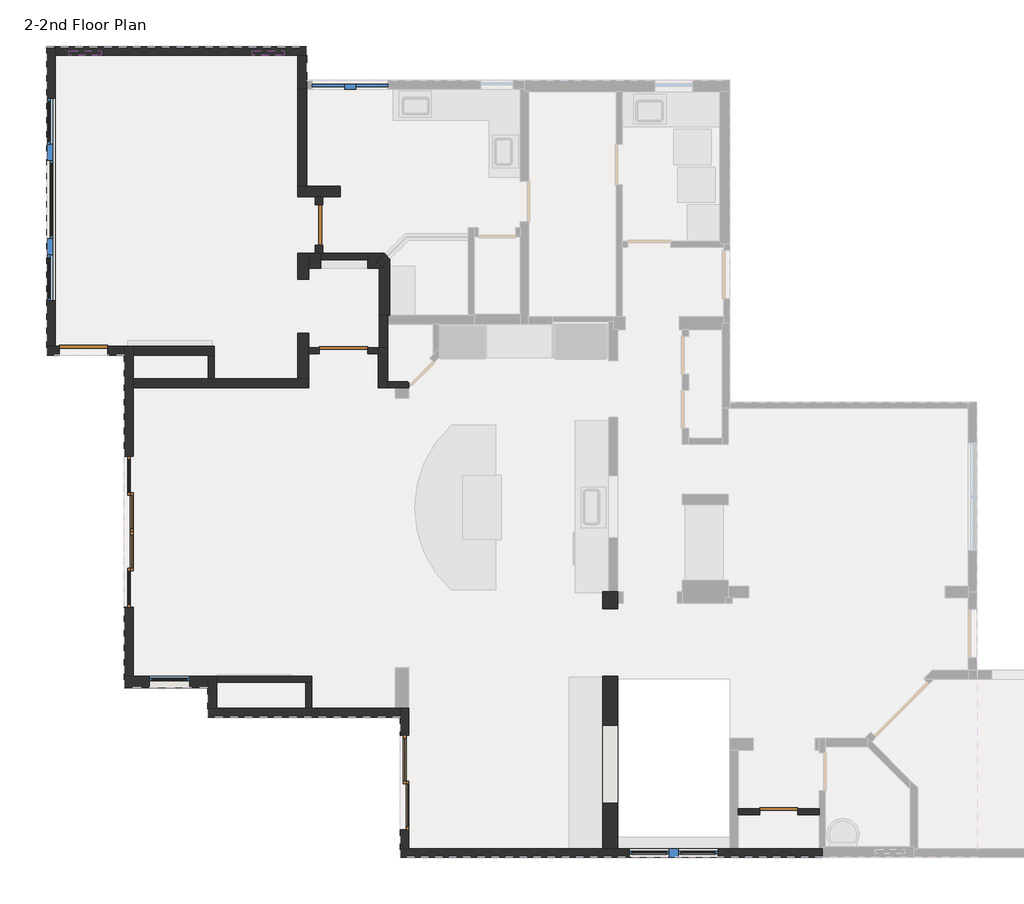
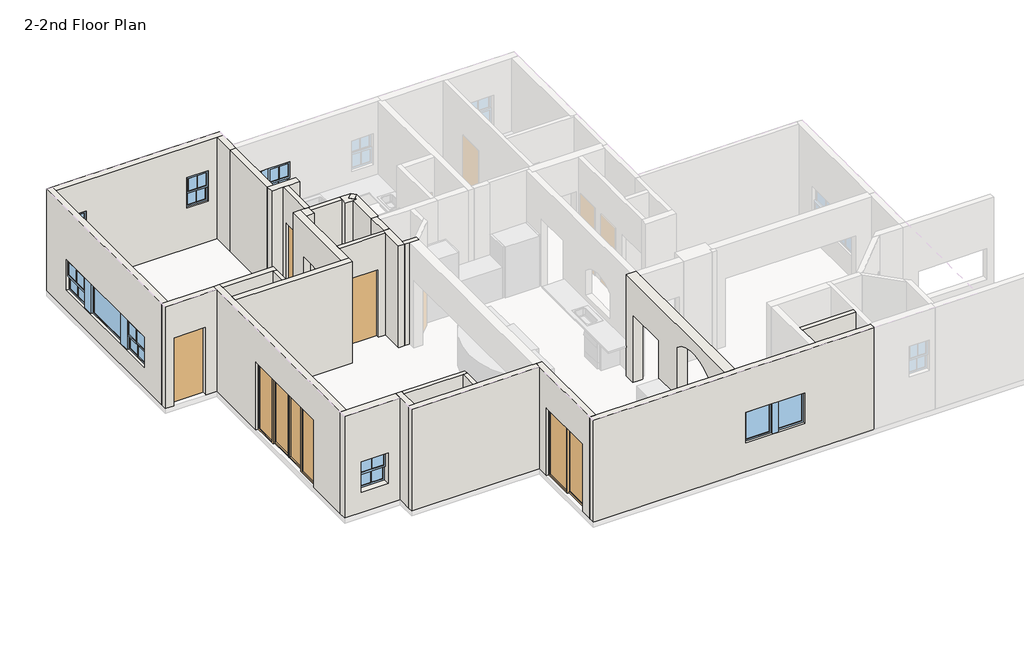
# One storey, part 1 of 3: 30 walls, 7 doors, 6 windows.
"""IFC4 building model written with IfcOpenShell, lengths in millimetres."""

from ifc_helpers import new_model, si_unit, frame, origin, place, context, project, spatial, polyline, circle_curve, outline, extrude, faceted_brep, transform, mapped, element, save
from ifc_brep_helpers import plane_surface, revolved_surface, advanced_brep
from components import door_64bc458f, door_eaf6c470, door_f2e01136, door_df503d46, door_63f27d76, door_1ca3bb58, door_0668c35f, window_c6721ae3, window_ac6b56c1, window_c7df3585, window_90565c03, window_83dc67e6

model = new_model("IFC4")

# Units and contexts
model_context = context("Model", 3, world=origin())
ifc_project = project(units=[si_unit("LENGTHUNIT", "METRE", prefix="MILLI")], contexts=[model_context])

# Site, building, storey
site = spatial("IfcSite", under=ifc_project)
building = spatial("IfcBuilding", under=site)
storey = spatial("IfcBuildingStorey", under=building, Name="2-2nd Floor Plan", Elevation=3348.0)

# Doors
placement = place(None, origin())
door_shape = door_64bc458f(model_context)
element("IfcDoor", 1, ObjectType="Door_1 : 2'-4\" X 6'-8\"", at=placement, inside=storey, context=model_context, shape_type="MappedRepresentation", body=[
    mapped(door_shape, transform((7137.4, 857.25, 3348.0), x_axis=(-1.0, 0.0, 0.0), y_axis=(0.0, -1.0, 0.0), z_axis=(0.0, 0.0, 1.0))),
])
door_2_shape = door_eaf6c470(model_context)
element("IfcDoor", 2, ObjectType="Door_1 : 3'-0\" X 6'-8\"", at=placement, inside=storey, context=model_context, shape_type="MappedRepresentation", body=[
    mapped(door_2_shape, transform((-1066.8, 9544.05, 3348.0), x_axis=(1.0, 0.0, 0.0), y_axis=(0.0, 1.0, 0.0), z_axis=(0.0, 0.0, 1.0))),
])
door_3_shape = door_f2e01136(model_context)
element("IfcDoor", 3, ObjectType="Door_1 : 3'-0\" X 6'-8\"", at=placement, inside=storey, context=model_context, shape_type="MappedRepresentation", body=[
    mapped(door_3_shape, transform((-5962.65, 9544.05, 3348.0), x_axis=(-1.0, 0.0, 0.0), y_axis=(0.0, -1.0, 0.0), z_axis=(0.0, 0.0, 1.0))),
])
door_4_shape = door_df503d46(model_context)
element("IfcDoor", 4, ObjectType="Door_3 : 4'-8\" X 6'-8\"", at=placement, inside=storey, context=model_context, shape_type="MappedRepresentation", body=[
    mapped(door_4_shape, transform((-5238.75, 6845.3, 3348.0), x_axis=(0.0, 1.0, 0.0), y_axis=(-1.0, 0.0, 0.0), z_axis=(0.0, 0.0, 1.0))),
])
door_5_shape = door_63f27d76(model_context)
element("IfcDoor", 5, ObjectType="Door_3 : 4'-8\" X 6'-8\"", at=placement, inside=storey, context=model_context, shape_type="MappedRepresentation", body=[
    mapped(door_5_shape, transform((-5238.75, 5422.9, 3348.0), x_axis=(0.0, -1.0, 0.0), y_axis=(1.0, 0.0, 0.0), z_axis=(0.0, 0.0, 1.0))),
])
door_6_shape = door_1ca3bb58(model_context)
element("IfcDoor", 6, ObjectType="Door_3 : 5'-10\" X 6'-8\"", at=placement, inside=storey, context=model_context, shape_type="MappedRepresentation", body=[
    mapped(door_6_shape, transform((-44.45, 1409.7, 3348.0), x_axis=(0.0, 1.0, 0.0), y_axis=(-1.0, 0.0, 0.0), z_axis=(0.0, 0.0, 1.0))),
])
door_7_shape = door_0668c35f(model_context)
element("IfcDoor", 7, ObjectType="Door_4 : 2'-6\" X 6'-8\"", at=placement, inside=storey, context=model_context, shape_type="MappedRepresentation", body=[
    mapped(door_7_shape, transform((-1520.825, 11912.4947939, 3348.0), x_axis=(0.0, -1.0, 0.0), y_axis=(1.0, 0.0, 0.0), z_axis=(0.0, 0.0, 1.0))),
])

# Walls
element("IfcWall", 8, ObjectType="Wall_11\"", at=placement, inside=storey, context=model_context, shape_type="Brep", body=[
    faceted_brep([(-1720.85, 11099.8, 3348.0), (-1498.6, 11099.8, 3348.0), (-1498.6, 11099.8, 6396.0), (-1720.85, 11099.8, 6396.0), (-1720.85, 11379.2, 3348.0), (-1720.85, 11379.2, 6396.0), (-1593.85, 11379.2, 6396.0), (-1498.6, 11379.2, 6396.0), (-1498.6, 11379.2, 3348.0), (-1593.85, 11379.2, 3348.0), (-1498.6, 11264.9, 3348.0), (-1498.6, 11264.9, 6396.0)], [[[0, 1, 2, 3]], [[4, 5, 6, 7, 8, 9]], [[1, 0, 4, 9, 8, 10]], [[2, 1, 10, 8, 7, 11]], [[3, 2, 11, 7, 6, 5]], [[0, 3, 5, 4]]]),
])
element("IfcWall", 9, ObjectType="Wall_11\"", at=placement, inside=storey, context=model_context, shape_type="AdvancedBrep", body=[
    advanced_brep(
    [(3822.7, 165.1, 6396.0), (3822.7, 5003.8, 6396.0), (3822.7, 5003.8, 3348.0), (3822.7, 4686.1947939, 3348.0), (3822.7, 4686.1947939, 5380.0), (3822.7, 3416.1947939, 5380.0), (3822.7, 3416.1947939, 3348.0), (3822.7, 165.1, 3348.0), (3822.7, 1016.0, 5735.6), (3822.7, 1016.0, 4414.8), (3822.7, 2489.2, 4414.8), (3822.7, 2489.2, 5735.6), (4102.1, 5003.8, 6396.0), (4102.1, 4787.7947939, 6396.0), (4102.1, 165.1, 6396.0), (4102.1, 165.1, 3348.0), (4102.1, 3416.1947939, 3348.0), (4102.1, 3416.1947939, 5380.0), (4102.1, 4686.1947939, 5380.0), (4102.1, 4686.1947939, 3348.0), (4102.1, 4787.7947939, 3348.0), (4102.1, 5003.8, 3348.0), (4102.1, 1016.0, 4414.8), (4102.1, 1016.0, 5735.6), (4102.1, 2489.2, 5735.6), (4102.1, 2489.2, 4414.8), (3937.0, 5003.8, 3348.0), (3937.0, 5003.8, 6396.0)],
    [
        (0, 1),
        (1, 2),
        (2, 3),
        (3, 4),
        (4, 5),
        (5, 6),
        (6, 7),
        (7, 0),
        (8, 9),
        (9, 10),
        (10, 11),
        (11, 8, circle_curve(frame((3822.7, 1752.6, 4916.8562565), z_axis=(1.0, 0.0, 0.0), x_axis=(0.0, -1.0, 0.0)), 1101.3268713)),
        (12, 13),
        (13, 14),
        (14, 15),
        (15, 16),
        (16, 17),
        (17, 18),
        (18, 19),
        (19, 20),
        (20, 21),
        (21, 12),
        (22, 23),
        (23, 24, circle_curve(frame((4102.1, 1752.6, 4916.8562565), z_axis=(-1.0, 0.0, 0.0), x_axis=(0.0, -1.0, 0.0)), 1101.3268713)),
        (24, 25),
        (25, 22),
        (15, 7),
        (6, 16),
        (2, 26),
        (26, 21),
        (19, 3),
        (0, 14),
        (12, 27),
        (27, 1),
        (18, 4),
        (5, 17),
        (8, 23),
        (22, 9),
        (11, 24),
        (10, 25),
    ],
    [
        plane_surface(frame((3822.7, 5003.6947939, 3348.0), z_axis=(-1.0, 0.0, 0.0), x_axis=(0.0, -1.0, 0.0))),
        plane_surface(frame((4102.1, 5003.6947939, 3348.0), z_axis=(1.0, 0.0, 0.0), x_axis=(0.0, 1.0, 0.0))),
        plane_surface(frame((3822.7, 5003.8, 3348.0), z_axis=(0.0, 0.0, -1.0), x_axis=(1.0, 0.0, 0.0))),
        plane_surface(frame((3822.7, 82.55, 6396.0), z_axis=(0.0, 0.0, 1.0), x_axis=(1.0, 0.0, 0.0))),
        plane_surface(frame((3822.7, 5003.8, 6396.0), z_axis=(0.0, 1.0, 0.0), x_axis=(1.0, 0.0, 0.0))),
        plane_surface(frame((7693.6373882, 165.1, 3348.0), z_axis=(0.0, -1.0, 0.0), x_axis=(-1.0, 0.0, 0.0))),
        plane_surface(frame((3822.7, 4686.1947939, 3348.0), z_axis=(0.0, -1.0, 0.0), x_axis=(1.0, 0.0, 0.0))),
        plane_surface(frame((3822.7, 3416.1947939, 5380.0), z_axis=(0.0, 1.0, 0.0), x_axis=(1.0, 0.0, 0.0))),
        plane_surface(frame((3822.7, 1016.0, 4414.8), z_axis=(0.0, 1.0, 0.0), x_axis=(1.0, 0.0, 0.0))),
        revolved_surface(polyline([(3822.7, 651.2731286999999, 4916.8562565), (4102.1, 651.2731286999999, 4916.8562565)]), (4102.1, 1752.6, 4916.8562565), (-1.0, 0.0, 0.0)),
        plane_surface(frame((3822.7, 2489.2, 5735.6), z_axis=(0.0, -1.0, 0.0), x_axis=(1.0, 0.0, 0.0))),
        plane_surface(frame((3822.7, 2489.2, 4414.8), z_axis=(0.0, 0.0, 1.0), x_axis=(1.0, 0.0, 0.0))),
        plane_surface(frame((3822.7, 4686.1947939, 5380.0), z_axis=(0.0, 0.0, -1.0), x_axis=(1.0, 0.0, 0.0))),
    ],
    [
        (0, [[1, 2, 3, 4, 5, 6, 7, 8], [9, 10, 11, 12]]),
        (1, [[13, 14, 15, 16, 17, 18, 19, 20, 21, 22], [23, 24, 25, 26]]),
        (2, [[27, -7, 28, -16]]),
        (2, [[29, 30, -21, -20, 31, -3]]),
        (3, [[-1, 32, -14, -13, 33, 34]]),
        (4, [[-2, -34, -33, -22, -30, -29]]),
        (5, [[-8, -27, -15, -32]]),
        (6, [[-4, -31, -19, 35]]),
        (7, [[-6, 36, -17, -28]]),
        (8, [[37, -23, 38, -9]]),
        (9, [[-37, -12, 39, -24]]),
        (10, [[-39, -11, 40, -25]]),
        (11, [[-38, -26, -40, -10]]),
        (12, [[-5, -35, -18, -36]]),
    ],
),
])
element("IfcWall", 10, ObjectType="Wall_11\"", at=placement, inside=storey, context=model_context, shape_type="Brep", body=[
    faceted_brep([(-609.6, 11099.8, 3348.0), (-393.7, 11099.8, 3348.0), (-298.45, 11099.8, 3348.0), (-298.45, 11099.8, 6396.0), (-393.7, 11099.8, 6396.0), (-609.6, 11099.8, 6396.0), (-298.45, 11379.2, 3348.0), (-609.6, 11379.2, 3348.0), (-609.6, 11379.2, 6396.0), (-298.45, 11379.2, 6396.0), (-609.6, 11264.9, 3348.0), (-442.1340979, 11235.5159021, 3348.0), (-334.1840979, 11127.5659021, 3348.0), (-298.45, 11163.3, 3348.0), (-298.45, 11163.3, 6396.0), (-334.1840979, 11127.5659021, 6396.0), (-442.1340979, 11235.5159021, 6396.0), (-609.6, 11264.9, 6396.0)], [[[0, 1, 2, 3, 4, 5]], [[6, 7, 8, 9]], [[2, 1, 0, 10, 7, 6, 11, 12, 13]], [[3, 2, 13, 14]], [[5, 4, 3, 14, 15, 16, 9, 8, 17]], [[0, 5, 17, 8, 7, 10]], [[15, 12, 11, 16]], [[12, 15, 14, 13]], [[16, 11, 6, 9]]]),
])
element("IfcWall", 11, ObjectType="Wall_4.5\"", at=placement, inside=storey, context=model_context, shape_type="Brep", body=[
    faceted_brep([(-3454.4, 3302.0, 3348.0), (-1778.0, 3302.0, 3348.0), (-1663.7, 3302.0, 3348.0), (-1663.7, 3302.0, 6396.0), (-1778.0, 3302.0, 6396.0), (-3454.4, 3302.0, 6396.0), (-3454.4, 3416.3, 3348.0), (-3454.4, 3416.3, 6396.0), (-1663.7, 3416.3, 6396.0), (-1663.7, 3416.3, 3348.0)], [[[0, 1, 2, 3, 4, 5]], [[6, 7, 8, 9]], [[2, 1, 0, 6, 9]], [[5, 4, 3, 8, 7]], [[0, 5, 7, 6]], [[3, 2, 9, 8]]]),
])
element("IfcWall", 12, ObjectType="Wall_4.5\"", at=placement, inside=storey, context=model_context, shape_type="SweptSolid", body=[
    extrude(outline(polyline([(-1778.0, 2806.7), (-1778.0, 3302.0), (-1663.7, 3302.0), (-1663.7, 2806.7), (-1778.0, 2806.7)])), frame((0.0, 0.0, 3348.0), z_axis=(0.0, 0.0, 1.0), x_axis=(1.0, 0.0, 0.0)), (0.0, 0.0, 1.0), 3048.0),
])
element("IfcWall", 13, ObjectType="Wall_4.5\"", at=placement, inside=storey, context=model_context, shape_type="SweptSolid", body=[
    extrude(outline(polyline([(-3613.15, 9017.0), (-3613.15, 9461.5), (-3498.85, 9461.5), (-3498.85, 9017.0), (-3613.15, 9017.0)])), frame((0.0, 0.0, 3348.0), z_axis=(0.0, 0.0, 1.0), x_axis=(1.0, 0.0, 0.0)), (0.0, 0.0, 1.0), 3048.0),
])
element("IfcWall", 14, ObjectType="Wall_4.5\"", at=placement, inside=storey, context=model_context, shape_type="Brep", body=[
    faceted_brep([(-228.6, 8851.9, 3348.0), (-88.9, 8851.9, 3348.0), (165.1, 8851.9, 3348.0), (165.1, 8851.9, 6396.0), (-88.9, 8851.9, 6396.0), (-228.6, 8851.9, 6396.0), (-228.6, 8966.2, 6396.0), (117.7553898, 8966.2, 6396.0), (165.1, 8966.2, 6396.0), (165.1, 8966.2, 5380.0), (140.6573755, 8966.2, 5380.0), (140.6573755, 8966.2, 3348.0), (117.7553898, 8966.2, 3348.0), (-228.6, 8966.2, 3348.0), (165.1, 8941.7573755, 3348.0), (165.1, 8941.7573755, 5380.0)], [[[0, 1, 2, 3, 4, 5]], [[6, 7, 8, 9, 10, 11, 12, 13]], [[2, 1, 0, 13, 12, 11, 14]], [[5, 4, 3, 8, 7, 6]], [[0, 5, 6, 13]], [[3, 2, 14, 15, 9, 8]], [[15, 10, 9]], [[10, 15, 14, 11]]]),
])
element("IfcWall", 15, ObjectType="Wall_4.5\"", at=placement, inside=storey, context=model_context, shape_type="SweptSolid", body=[
    extrude(outline(polyline([(5380.0, -609.6), (3348.0, -609.6), (3348.0, -406.4), (6396.0, -406.4), (6396.0, -1720.85), (3348.0, -1720.85), (3348.0, -1524.0), (5380.0, -1524.0), (5380.0, -609.6)])), frame((0.0, 9486.9, 0.0), z_axis=(0.0, 1.0, 0.0), x_axis=(0.0, 0.0, 1.0)), (0.0, 0.0, 1.0), 114.3),
])
element("IfcWall", 16, ObjectType="Wall_4.5\"", at=placement, inside=storey, context=model_context, shape_type="SweptSolid", body=[
    extrude(outline(polyline([(3348.0, 6375.4), (3348.0, 6781.8), (5380.0, 6781.8), (5380.0, 7493.0), (3348.0, 7493.0), (3348.0, 7899.4), (6396.0, 7899.4), (6396.0, 6375.4), (3348.0, 6375.4)])), frame((0.0, 800.1, 0.0), z_axis=(0.0, 1.0, 0.0), x_axis=(0.0, 0.0, 1.0)), (0.0, 0.0, 1.0), 114.3),
])
element("IfcWall", 17, ObjectType="Wall_4.5\"", at=placement, inside=storey, context=model_context, shape_type="Brep", body=[
    faceted_brep([(-1498.6, 11264.9, 3348.0), (-609.6, 11264.9, 3348.0), (-609.6, 11264.9, 6396.0), (-1498.6, 11264.9, 6396.0), (-1498.6, 11379.2, 3348.0), (-1498.6, 11379.2, 6396.0), (-1454.15, 11379.2, 6396.0), (-609.6, 11379.2, 6396.0), (-609.6, 11379.2, 3348.0), (-1454.15, 11379.2, 3348.0)], [[[0, 1, 2, 3]], [[4, 5, 6, 7, 8, 9]], [[1, 0, 4, 9, 8]], [[2, 1, 8, 7]], [[3, 2, 7, 6, 5]], [[0, 3, 5, 4]]]),
])
element("IfcWall", 18, ObjectType="Wall_5.5\"", at=placement, inside=storey, context=model_context, shape_type="Brep", body=[
    faceted_brep([(-1454.15, 12445.8947939, 6396.0), (-1454.15, 11379.2, 6396.0), (-1454.15, 11379.2, 3348.0), (-1454.15, 11531.4947939, 3348.0), (-1454.15, 11531.4947939, 5405.4), (-1454.15, 12293.4947939, 5405.4), (-1454.15, 12293.4947939, 3348.0), (-1454.15, 12445.8947939, 3348.0), (-1593.85, 11379.2, 6396.0), (-1593.85, 12445.8947939, 6396.0), (-1593.85, 12445.8947939, 3348.0), (-1593.85, 12293.4947939, 3348.0), (-1593.85, 12293.4947939, 5405.4), (-1593.85, 11531.4947939, 5405.4), (-1593.85, 11531.4947939, 3348.0), (-1593.85, 11379.2, 3348.0), (-1498.6, 11379.2, 3348.0), (-1498.6, 11379.2, 6396.0)], [[[0, 1, 2, 3, 4, 5, 6, 7]], [[8, 9, 10, 11, 12, 13, 14, 15]], [[10, 7, 6, 11]], [[2, 16, 15, 14, 3]], [[1, 0, 9, 8, 17]], [[2, 1, 17, 8, 15, 16]], [[0, 7, 10, 9]], [[13, 4, 3, 14]], [[4, 13, 12, 5]], [[5, 12, 11, 6]]]),
])
element("IfcWall", 19, ObjectType="Wall_6.5\"", at=placement, inside=storey, context=model_context, shape_type="Brep", body=[
    faceted_brep([(7956.55, 165.1, 3348.0), (7899.4, 165.1, 3348.0), (6375.4, 165.1, 3348.0), (6210.3, 165.1, 3348.0), (4102.1, 165.1, 3348.0), (3822.7, 165.1, 3348.0), (165.1, 165.1, 3348.0), (0.0, 165.1, 3348.0), (0.0, 165.1, 6396.0), (165.1, 165.1, 6396.0), (3822.7, 165.1, 6396.0), (4102.1, 165.1, 6396.0), (6210.3, 165.1, 6396.0), (6375.4, 165.1, 6396.0), (7899.4, 165.1, 6396.0), (7956.55, 165.1, 6396.0), (5994.4, 165.1, 5126.0), (4318.0, 165.1, 5126.0), (4318.0, 165.1, 4211.6), (5994.4, 165.1, 4211.6), (7956.55, 0.0, 3348.0), (7956.55, 0.0, 6396.0), (0.0, 0.0, 6396.0), (0.0, 0.0, 3348.0), (5994.4, 0.0, 5126.0), (5994.4, 0.0, 4211.6), (4318.0, 0.0, 4211.6), (4318.0, 0.0, 5126.0)], [[[0, 1, 2, 3, 4, 5, 6, 7, 8, 9, 10, 11, 12, 13, 14, 15], [16, 17, 18, 19]], [[20, 21, 22, 23], [24, 25, 26, 27]], [[7, 6, 5, 4, 3, 2, 1, 0, 20, 23]], [[15, 14, 13, 12, 11, 10, 9, 8, 22, 21]], [[0, 15, 21, 20]], [[8, 7, 23, 22]], [[25, 24, 16, 19]], [[26, 25, 19, 18]], [[27, 26, 18, 17]], [[24, 27, 17, 16]]]),
])
element("IfcWall", 20, ObjectType="Wall_6.5\"", at=placement, inside=storey, context=model_context, shape_type="Brep", body=[
    faceted_brep([(165.1, 2298.7, 5380.0), (165.1, 2298.7, 3348.0), (165.1, 2806.7, 3348.0), (165.1, 2806.7, 6396.0), (165.1, 165.1, 6396.0), (165.1, 165.1, 3348.0), (165.1, 520.7, 3348.0), (165.1, 520.7, 5380.0), (0.0, 2806.7, 3348.0), (0.0, 2641.6, 3348.0), (0.0, 2298.7, 3348.0), (0.0, 2298.7, 5380.0), (0.0, 520.7, 5380.0), (0.0, 520.7, 3348.0), (0.0, 165.1, 3348.0), (0.0, 165.1, 6396.0), (0.0, 2641.6, 6396.0), (0.0, 2806.7, 6396.0)], [[[0, 1, 2, 3, 4, 5, 6, 7]], [[8, 9, 10, 11, 12, 13, 14, 15, 16, 17]], [[6, 5, 14, 13]], [[2, 1, 10, 9, 8]], [[4, 3, 17, 16, 15]], [[5, 4, 15, 14]], [[3, 2, 8, 17]], [[13, 12, 7, 6]], [[11, 10, 1, 0]], [[12, 11, 0, 7]]]),
])
element("IfcWall", 21, ObjectType="Wall_6.5\"", at=placement, inside=storey, context=model_context, shape_type="Brep", body=[
    faceted_brep([(0.0, 2806.7, 3348.0), (-88.9, 2806.7, 3348.0), (-1663.7, 2806.7, 3348.0), (-1778.0, 2806.7, 3348.0), (-3454.4, 2806.7, 3348.0), (-3619.5, 2806.7, 3348.0), (-3619.5, 2806.7, 6396.0), (-3454.4, 2806.7, 6396.0), (-1778.0, 2806.7, 6396.0), (-1663.7, 2806.7, 6396.0), (-88.9, 2806.7, 6396.0), (0.0, 2806.7, 6396.0), (0.0, 2641.6, 3348.0), (0.0, 2641.6, 6396.0), (-3619.5, 2641.6, 6396.0), (-3619.5, 2641.6, 3348.0)], [[[0, 1, 2, 3, 4, 5, 6, 7, 8, 9, 10, 11]], [[12, 13, 14, 15]], [[5, 4, 3, 2, 1, 0, 12, 15]], [[11, 10, 9, 8, 7, 6, 14, 13]], [[0, 11, 13, 12]], [[6, 5, 15, 14]]]),
])
element("IfcWall", 22, ObjectType="Wall_6.5\"", at=placement, inside=storey, context=model_context, shape_type="Brep", body=[
    faceted_brep([(-3454.4, 2806.7, 3348.0), (-3454.4, 3302.0, 3348.0), (-3454.4, 3416.3, 3348.0), (-3454.4, 3416.3, 6396.0), (-3454.4, 3302.0, 6396.0), (-3454.4, 2806.7, 6396.0), (-3619.5, 2806.7, 3348.0), (-3619.5, 2806.7, 6396.0), (-3619.5, 3200.4, 6396.0), (-3619.5, 3416.3, 6396.0), (-3619.5, 3416.3, 3348.0), (-3619.5, 3200.4, 3348.0)], [[[0, 1, 2, 3, 4, 5]], [[6, 7, 8, 9, 10, 11]], [[2, 1, 0, 6, 11, 10]], [[5, 4, 3, 9, 8, 7]], [[0, 5, 7, 6]], [[3, 2, 10, 9]]]),
])
element("IfcWall", 23, ObjectType="Wall_6.5\"", at=placement, inside=storey, context=model_context, shape_type="Brep", body=[
    faceted_brep([(-5029.2, 9626.6, 6396.0), (-5029.2, 9461.5, 6396.0), (-5029.2, 9017.0, 6396.0), (-5029.2, 8851.9, 6396.0), (-5029.2, 3416.3, 6396.0), (-5029.2, 3416.3, 3348.0), (-5029.2, 4711.7, 3348.0), (-5029.2, 4711.7, 5380.0), (-5029.2, 7556.5, 5380.0), (-5029.2, 7556.5, 3348.0), (-5029.2, 8851.9, 3348.0), (-5029.2, 9017.0, 3348.0), (-5029.2, 9461.5, 3348.0), (-5029.2, 9626.6, 3348.0), (-5194.3, 3416.3, 6396.0), (-5194.3, 9461.5, 6396.0), (-5194.3, 9626.6, 6396.0), (-5194.3, 9626.6, 3348.0), (-5194.3, 9461.5, 3348.0), (-5194.3, 7556.5, 3348.0), (-5194.3, 7556.5, 5380.0), (-5194.3, 4711.7, 5380.0), (-5194.3, 4711.7, 3348.0), (-5194.3, 3416.3, 3348.0)], [[[0, 1, 2, 3, 4, 5, 6, 7, 8, 9, 10, 11, 12, 13]], [[14, 15, 16, 17, 18, 19, 20, 21, 22, 23]], [[5, 23, 22, 6]], [[17, 13, 12, 11, 10, 9, 19, 18]], [[4, 3, 2, 1, 0, 16, 15, 14]], [[5, 4, 14, 23]], [[0, 13, 17, 16]], [[8, 20, 19, 9]], [[20, 8, 7, 21]], [[21, 7, 6, 22]]]),
])
element("IfcWall", 24, ObjectType="Wall_6.5\"", at=placement, inside=storey, context=model_context, shape_type="Brep", body=[
    faceted_brep([(-6419.85, 9626.6, 5380.0), (-6419.85, 9626.6, 3348.0), (-6496.05, 9626.6, 3348.0), (-6661.15, 9626.6, 3348.0), (-6661.15, 9626.6, 6396.0), (-6496.05, 9626.6, 6396.0), (-5194.3, 9626.6, 6396.0), (-5194.3, 9626.6, 3348.0), (-5505.45, 9626.6, 3348.0), (-5505.45, 9626.6, 5380.0), (-6661.15, 9461.5, 3348.0), (-6419.85, 9461.5, 3348.0), (-6419.85, 9461.5, 5380.0), (-5505.45, 9461.5, 5380.0), (-5505.45, 9461.5, 3348.0), (-5194.3, 9461.5, 3348.0), (-5194.3, 9461.5, 6396.0), (-6661.15, 9461.5, 6396.0)], [[[0, 1, 2, 3, 4, 5, 6, 7, 8, 9]], [[10, 11, 12, 13, 14, 15, 16, 17]], [[8, 7, 15, 14]], [[3, 2, 1, 11, 10]], [[6, 5, 4, 17, 16]], [[7, 6, 16, 15]], [[4, 3, 10, 17]], [[12, 11, 1, 0]], [[13, 12, 0, 9]], [[14, 13, 9, 8]]]),
])
element("IfcWall", 25, ObjectType="Wall_6.5\"", at=placement, inside=storey, context=model_context, shape_type="Brep", body=[
    faceted_brep([(-6496.05, 9626.6, 3348.0), (-6496.05, 15113.0, 3348.0), (-6496.05, 15278.1, 3348.0), (-6496.05, 15278.1, 6396.0), (-6496.05, 15113.0, 6396.0), (-6496.05, 9626.6, 6396.0), (-6496.05, 10490.2, 4872.0), (-6496.05, 14300.2, 4872.0), (-6496.05, 14300.2, 3957.6), (-6496.05, 10490.2, 3957.6), (-6661.15, 9626.6, 3348.0), (-6661.15, 9626.6, 6396.0), (-6661.15, 15278.1, 6396.0), (-6661.15, 15278.1, 3348.0), (-6661.15, 10490.2, 4872.0), (-6661.15, 10490.2, 3957.6), (-6661.15, 14300.2, 3957.6), (-6661.15, 14300.2, 4872.0)], [[[0, 1, 2, 3, 4, 5], [6, 7, 8, 9]], [[10, 11, 12, 13], [14, 15, 16, 17]], [[2, 1, 0, 10, 13]], [[5, 4, 3, 12, 11]], [[0, 5, 11, 10]], [[3, 2, 13, 12]], [[15, 14, 6, 9]], [[16, 15, 9, 8]], [[17, 16, 8, 7]], [[14, 17, 7, 6]]]),
])
element("IfcWall", 26, ObjectType="Wall_6.5\"", at=placement, inside=storey, context=model_context, shape_type="Brep", body=[
    faceted_brep([(-6496.05, 15113.0, 3348.0), (-1924.05, 15113.0, 3348.0), (-1758.95, 15113.0, 3348.0), (-1758.95, 15113.0, 6396.0), (-1924.05, 15113.0, 6396.0), (-6496.05, 15113.0, 6396.0), (-2787.65, 15113.0, 5481.6), (-2178.05, 15113.0, 5481.6), (-2178.05, 15113.0, 4567.2), (-2787.65, 15113.0, 4567.2), (-6242.05, 15113.0, 5481.6), (-5632.45, 15113.0, 5481.6), (-5632.45, 15113.0, 4567.2), (-6242.05, 15113.0, 4567.2), (-6496.05, 15278.1, 3348.0), (-6496.05, 15278.1, 6396.0), (-1758.95, 15278.1, 6396.0), (-1758.95, 15278.1, 3348.0), (-2787.65, 15278.1, 5481.6), (-2787.65, 15278.1, 4567.2), (-2178.05, 15278.1, 4567.2), (-2178.05, 15278.1, 5481.6), (-6242.05, 15278.1, 5481.6), (-6242.05, 15278.1, 4567.2), (-5632.45, 15278.1, 4567.2), (-5632.45, 15278.1, 5481.6)], [[[0, 1, 2, 3, 4, 5], [6, 7, 8, 9], [10, 11, 12, 13]], [[14, 15, 16, 17], [18, 19, 20, 21], [22, 23, 24, 25]], [[2, 1, 0, 14, 17]], [[5, 4, 3, 16, 15]], [[0, 5, 15, 14]], [[3, 2, 17, 16]], [[19, 18, 6, 9]], [[20, 19, 9, 8]], [[21, 20, 8, 7]], [[18, 21, 7, 6]], [[23, 22, 10, 13]], [[24, 23, 13, 12]], [[25, 24, 12, 11]], [[22, 25, 11, 10]]]),
])
element("IfcWall", 27, ObjectType="Wall_6.5\"", at=placement, inside=storey, context=model_context, shape_type="Brep", body=[
    faceted_brep([(-1924.05, 15113.0, 3348.0), (-1924.05, 14477.8947939, 3348.0), (-1924.05, 14477.8947939, 6396.0), (-1924.05, 15113.0, 6396.0), (-1758.95, 15113.0, 3348.0), (-1758.95, 15113.0, 6396.0), (-1758.95, 14642.9947939, 6396.0), (-1758.95, 14477.8947939, 6396.0), (-1758.95, 14477.8947939, 3348.0), (-1758.95, 14642.9947939, 3348.0)], [[[0, 1, 2, 3]], [[4, 5, 6, 7, 8, 9]], [[1, 0, 4, 9, 8]], [[3, 2, 7, 6, 5]], [[0, 3, 5, 4]], [[2, 1, 8, 7]]]),
])
element("IfcWall", 28, ObjectType="Wall_6.5\"", at=placement, inside=storey, context=model_context, shape_type="Brep", body=[
    faceted_brep([(-5029.2, 9461.5, 3348.0), (-3613.15, 9461.5, 3348.0), (-3498.85, 9461.5, 3348.0), (-3498.85, 9461.5, 6396.0), (-3613.15, 9461.5, 6396.0), (-5029.2, 9461.5, 6396.0), (-5029.2, 9626.6, 3348.0), (-5029.2, 9626.6, 6396.0), (-3498.85, 9626.6, 6396.0), (-3498.85, 9626.6, 3348.0)], [[[0, 1, 2, 3, 4, 5]], [[6, 7, 8, 9]], [[2, 1, 0, 6, 9]], [[5, 4, 3, 8, 7]], [[0, 5, 7, 6]], [[3, 2, 9, 8]]]),
])
element("IfcWall", 29, ObjectType="Wall_6.5\"", at=placement, inside=storey, context=model_context, shape_type="Brep", body=[
    faceted_brep([(-5029.2, 8851.9, 3348.0), (-1720.85, 8851.9, 3348.0), (-1720.85, 8851.9, 6396.0), (-5029.2, 8851.9, 6396.0), (-5029.2, 9017.0, 3348.0), (-5029.2, 9017.0, 6396.0), (-3613.15, 9017.0, 6396.0), (-3498.85, 9017.0, 6396.0), (-1924.05, 9017.0, 6396.0), (-1720.85, 9017.0, 6396.0), (-1720.85, 9017.0, 3348.0), (-1924.05, 9017.0, 3348.0), (-3498.85, 9017.0, 3348.0), (-3613.15, 9017.0, 3348.0)], [[[0, 1, 2, 3]], [[4, 5, 6, 7, 8, 9, 10, 11, 12, 13]], [[1, 0, 4, 13, 12, 11, 10]], [[3, 2, 9, 8, 7, 6, 5]], [[0, 3, 5, 4]], [[2, 1, 10, 9]]]),
])
element("IfcWall", 30, ObjectType="Wall_6.5\"", at=placement, inside=storey, context=model_context, shape_type="SweptSolid", body=[
    extrude(outline(polyline([(-1758.95, 14477.8947939), (-1758.95, 12649.0947939), (-1924.05, 12649.0947939), (-1924.05, 14477.8947939), (-1758.95, 14477.8947939)])), frame((0.0, 0.0, 3348.0), z_axis=(0.0, 0.0, 1.0), x_axis=(1.0, 0.0, 0.0)), (0.0, 0.0, 1.0), 3048.0),
])
element("IfcWall", 31, ObjectType="Wall_6.5\"", at=placement, inside=storey, context=model_context, shape_type="Brep", body=[
    faceted_brep([(-228.6, 9601.2, 3348.0), (-228.6, 10045.7, 3348.0), (-228.6, 10210.8, 3348.0), (-228.6, 10210.8, 6396.0), (-228.6, 10045.7, 6396.0), (-228.6, 9601.2, 6396.0), (-393.7, 9601.2, 3348.0), (-393.7, 9601.2, 6396.0), (-393.7, 10210.8, 6396.0), (-393.7, 10210.8, 3348.0)], [[[0, 1, 2, 3, 4, 5]], [[6, 7, 8, 9]], [[2, 1, 0, 6, 9]], [[5, 4, 3, 8, 7]], [[0, 5, 7, 6]], [[3, 2, 9, 8]]]),
])
element("IfcWall", 32, ObjectType="Wall_7\"", at=placement, inside=storey, context=model_context, shape_type="Brep", body=[
    faceted_brep([(-228.6, 8851.9, 3348.0), (-228.6, 8966.2, 3348.0), (-228.6, 9601.2, 3348.0), (-228.6, 9601.2, 6396.0), (-228.6, 8966.2, 6396.0), (-228.6, 8851.9, 6396.0), (-406.4, 8851.9, 3348.0), (-406.4, 8851.9, 6396.0), (-406.4, 9486.9, 6396.0), (-406.4, 9601.2, 6396.0), (-406.4, 9601.2, 3348.0), (-406.4, 9486.9, 3348.0), (-393.7, 9601.2, 3348.0), (-393.7, 9601.2, 6396.0)], [[[0, 1, 2, 3, 4, 5]], [[6, 7, 8, 9, 10, 11]], [[2, 1, 0, 6, 11, 10, 12]], [[5, 4, 3, 13, 9, 8, 7]], [[0, 5, 7, 6]], [[3, 2, 12, 10, 9, 13]]]),
])
element("IfcWall", 33, ObjectType="Wall_8\"", at=placement, inside=storey, context=model_context, shape_type="Brep", body=[
    faceted_brep([(-1720.85, 9017.0, 3348.0), (-1720.85, 9486.9, 3348.0), (-1720.85, 9601.2, 3348.0), (-1720.85, 9880.6, 3348.0), (-1720.85, 9880.6, 5380.0), (-1720.85, 10896.6, 5380.0), (-1720.85, 10896.6, 3348.0), (-1720.85, 11099.8, 3348.0), (-1720.85, 11379.2, 3348.0), (-1720.85, 11379.2, 6396.0), (-1720.85, 11099.8, 6396.0), (-1720.85, 9601.2, 6396.0), (-1720.85, 9486.9, 6396.0), (-1720.85, 9017.0, 6396.0), (-1924.05, 9880.6, 5380.0), (-1924.05, 9880.6, 3348.0), (-1924.05, 9017.0, 3348.0), (-1924.05, 9017.0, 6396.0), (-1924.05, 11379.2, 6396.0), (-1924.05, 11379.2, 3348.0), (-1924.05, 10896.6, 3348.0), (-1924.05, 10896.6, 5380.0)], [[[0, 1, 2, 3, 4, 5, 6, 7, 8, 9, 10, 11, 12, 13]], [[14, 15, 16, 17, 18, 19, 20, 21]], [[0, 13, 17, 16]], [[9, 8, 19, 18]], [[20, 19, 8, 7, 6]], [[16, 15, 3, 2, 1, 0]], [[13, 12, 11, 10, 9, 18, 17]], [[4, 3, 15, 14]], [[5, 4, 14, 21]], [[6, 5, 21, 20]]]),
])
element("IfcWall", 34, ObjectType="Wall_8\"", at=placement, inside=storey, context=model_context, shape_type="Brep", body=[
    faceted_brep([(-1123.95, 12649.0947939, 3348.0), (-1758.95, 12649.0947939, 3348.0), (-1924.05, 12649.0947939, 3348.0), (-1924.05, 12649.0947939, 6396.0), (-1758.95, 12649.0947939, 6396.0), (-1123.95, 12649.0947939, 6396.0), (-1123.95, 12445.8947939, 3348.0), (-1123.95, 12445.8947939, 6396.0), (-1454.15, 12445.8947939, 6396.0), (-1593.85, 12445.8947939, 6396.0), (-1924.05, 12445.8947939, 6396.0), (-1924.05, 12445.8947939, 3348.0), (-1593.85, 12445.8947939, 3348.0), (-1454.15, 12445.8947939, 3348.0)], [[[0, 1, 2, 3, 4, 5]], [[6, 7, 8, 9, 10, 11, 12, 13]], [[2, 1, 0, 6, 13, 12, 11]], [[5, 4, 3, 10, 9, 8, 7]], [[0, 5, 7, 6]], [[3, 2, 11, 10]]]),
])
element("IfcWall", 35, ObjectType="Wall_8\"", at=placement, inside=storey, context=model_context, shape_type="Brep", body=[
    faceted_brep([(-442.1340979, 11235.5159021, 3348.0), (-334.1840979, 11127.5659021, 3348.0), (-334.1840979, 11127.5659021, 6396.0), (-442.1340979, 11235.5159021, 6396.0), (-298.45, 11379.2, 3348.0), (-298.45, 11379.2, 6396.0), (-190.5, 11271.25, 6396.0), (-190.5, 11271.25, 3348.0), (-298.45, 11163.3, 3348.0), (-298.45, 11163.3, 6396.0)], [[[0, 1, 2, 3]], [[4, 5, 6, 7]], [[1, 0, 4, 7, 8]], [[2, 1, 8, 7, 6, 9]], [[3, 2, 9, 6, 5]], [[0, 3, 5, 4]]]),
])
element("IfcWall", 36, ObjectType="Wall_8\"", at=placement, inside=storey, context=model_context, shape_type="Brep", body=[
    faceted_brep([(-393.7, 10210.8, 3348.0), (-393.7, 10210.8, 6396.0), (-393.7, 11099.8, 6396.0), (-393.7, 11099.8, 3348.0), (-190.5, 10210.8, 3348.0), (-190.5, 11271.25, 3348.0), (-190.5, 11271.25, 6396.0), (-190.5, 10210.8, 6396.0), (-228.6, 10210.8, 3348.0), (-298.45, 11099.8, 3348.0), (-298.45, 11163.3, 3348.0), (-298.45, 11163.3, 6396.0), (-298.45, 11099.8, 6396.0), (-228.6, 10210.8, 6396.0)], [[[0, 1, 2, 3]], [[4, 5, 6, 7]], [[5, 4, 8, 0, 3, 9, 10]], [[7, 6, 11, 12, 2, 1, 13]], [[1, 0, 8, 4, 7, 13]], [[6, 5, 10, 11]], [[12, 9, 3, 2]], [[9, 12, 11, 10]]]),
])
element("IfcWall", 37, ObjectType="Wall_8.5\"", at=placement, inside=storey, context=model_context, shape_type="Brep", body=[
    faceted_brep([(-3619.5, 3416.3, 3348.0), (-5029.2, 3416.3, 3348.0), (-5194.3, 3416.3, 3348.0), (-5194.3, 3416.3, 6396.0), (-5029.2, 3416.3, 6396.0), (-3619.5, 3416.3, 6396.0), (-4724.4, 3416.3, 4872.0), (-4724.4, 3416.3, 3957.6), (-3962.4, 3416.3, 3957.6), (-3962.4, 3416.3, 4872.0), (-3619.5, 3200.4, 3348.0), (-3619.5, 3200.4, 6396.0), (-5194.3, 3200.4, 6396.0), (-5194.3, 3200.4, 3348.0), (-4724.4, 3200.4, 4872.0), (-3962.4, 3200.4, 4872.0), (-3962.4, 3200.4, 3957.6), (-4724.4, 3200.4, 3957.6)], [[[0, 1, 2, 3, 4, 5], [6, 7, 8, 9]], [[10, 11, 12, 13], [14, 15, 16, 17]], [[2, 1, 0, 10, 13]], [[5, 4, 3, 12, 11]], [[0, 5, 11, 10]], [[3, 2, 13, 12]], [[7, 6, 14, 17]], [[8, 7, 17, 16]], [[9, 8, 16, 15]], [[6, 9, 15, 14]]]),
])

# Windows
window_shape = window_c6721ae3(model_context)
element("IfcWindow", 38, ObjectType="Window_4 : 2'-0\" x 3'-0\"", at=placement, inside=storey, context=model_context, shape_type="MappedRepresentation", body=[
    mapped(window_shape, transform((-2482.85, 15195.55, 3729.0), x_axis=(-1.0, 0.0, 0.0), y_axis=(0.0, -1.0, 0.0), z_axis=(0.0, 0.0, 1.0))),
])
element("IfcWindow", 39, ObjectType="Window_4 : 2'-0\" x 3'-0\"", at=placement, inside=storey, context=model_context, shape_type="MappedRepresentation", body=[
    mapped(window_shape, transform((-5937.25, 15195.55, 3729.0), x_axis=(-1.0, 0.0, 0.0), y_axis=(0.0, -1.0, 0.0), z_axis=(0.0, 0.0, 1.0))),
])
window_2_shape = window_ac6b56c1(model_context)
element("IfcWindow", 40, ObjectType="Window_4 : 2'-6\" x 3'-0\"", at=placement, inside=storey, context=model_context, shape_type="MappedRepresentation", body=[
    mapped(window_2_shape, transform((-4343.4, 3308.35, 3119.4), x_axis=(-1.0, 0.0, 0.0), y_axis=(0.0, -1.0, 0.0), z_axis=(0.0, 0.0, 1.0))),
])
window_3_shape = window_c7df3585(model_context)
element("IfcWindow", 41, ObjectType="Window_6 : 12'-6\" x 3'-0\"", at=placement, inside=storey, context=model_context, shape_type="MappedRepresentation", body=[
    mapped(window_3_shape, transform((-6578.6, 12395.2, 3119.4), x_axis=(0.0, -1.0, 0.0), y_axis=(1.0, 0.0, 0.0), z_axis=(0.0, 0.0, 1.0))),
])
window_4_shape = window_90565c03(model_context)
element("IfcWindow", 42, ObjectType="Window_7 : 2'-10\" x 3'-0\"", at=placement, inside=storey, context=model_context, shape_type="MappedRepresentation", body=[
    mapped(window_4_shape, transform((-939.8, 14560.4447939, 3703.6), x_axis=(-1.0, 0.0, 0.0), y_axis=(0.0, -1.0, 0.0), z_axis=(0.0, 0.0, 1.0))),
])
window_5_shape = window_83dc67e6(model_context)
element("IfcWindow", 43, ObjectType="Window_8 : 5'-6\" x 3'-0\"", at=placement, inside=storey, context=model_context, shape_type="MappedRepresentation", body=[
    mapped(window_5_shape, transform((5143.5, 82.55, 3373.4), x_axis=(1.0, 0.0, 0.0), y_axis=(0.0, 1.0, 0.0), z_axis=(0.0, 0.0, 1.0))),
])

save(model, "model.ifc")
